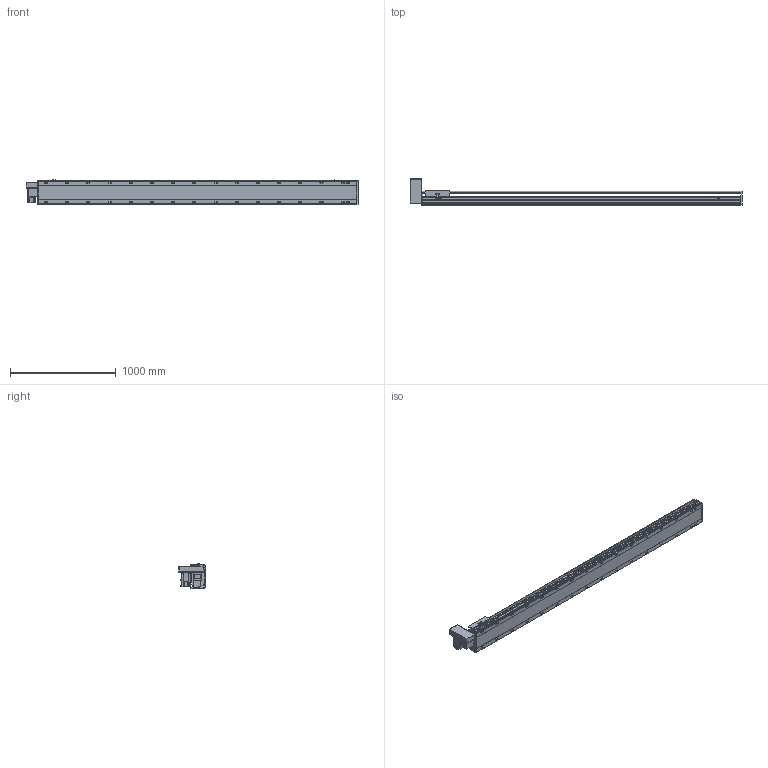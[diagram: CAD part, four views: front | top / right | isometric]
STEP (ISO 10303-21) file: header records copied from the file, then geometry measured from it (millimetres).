
FILE_DESCRIPTION(/* description */ ('STEP AP214'),/* implementation_level */ '2;1');
FILE_NAME(/* name */ 'PBS220-P40-S2650-RU-T75-C1-N(0)',/* time_stamp */ '2022-06-13T02:59:01+02:00',/* author */ ('License CC BY-ND 4.0'),/* organization */ ('CADENAS'),/* preprocessor_version */ 'ST-DEVELOPER v18.102',/* originating_system */ 'PARTsolutions',/* authorisation */ ' ');
FILE_SCHEMA (('AUTOMOTIVE_DESIGN {1 0 10303 214 3 1 1}'));
Length unit declared in the file: millimetre
Products named in the file (7): PBS220-P40-S2650-RU-T75-C1-N(0); PBS220_sensor; PBS220_plant; PBS220_sliser; T75-p1; PBS220T-RU_motors; PBS220-S2650()_body
Assembly tree (8 placements, depth 2):
  PBS220-P40-S2650-RU-T75-C1-N(0)
    PBS220_sensor  x3
    PBS220_plant
    PBS220_sliser
    T75-p1
    PBS220T-RU_motors
    PBS220-S2650()_body
Bounding box: 3134 x 247 x 238.5 mm (x, y, z)
Volume: 43672659.5 mm3; surface area: 3993191.7 mm2
Topology: 8 solids, 8 shells, 1010 faces, 2620 edges, 1702 vertices
Faces by surface type: plane 630, cylinder 324, cone 56
Full cylindrical faces by diameter (mm): 2.013 x4, 4.5 x14, 4.917 x4, 6 x7, 6.647 x8, 8 x10, 8.376 x32, 8.5 x32, 10 x6, 14 x32, 38 x2, 40 x1, 70 x1
Entity records: 28125 total; most frequent: CARTESIAN_POINT 5020, DIRECTION 4887, ORIENTED_EDGE 4394, EDGE_CURVE 2197, AXIS2_PLACEMENT_3D 1763, VERTEX_POINT 1544, LINE 1361, VECTOR 1361
